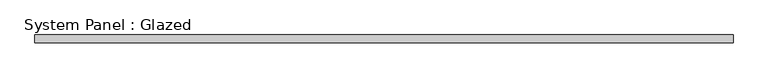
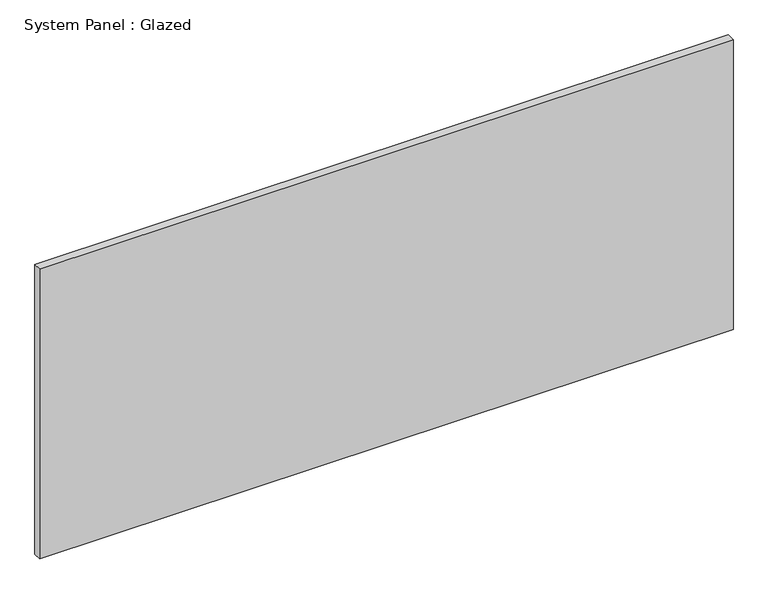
"""IFC4 building model written with IfcOpenShell, lengths in millimetres: plate geometry, System Panel : Glazed."""

import ifcopenshell
import ifcopenshell.guid

model = None  # the IFC model being written
_history = None  # IfcOwnerHistory: only IFC2X3 demands one
_inside = {}  # id of a spatial element -> (the spatial element, [elements in it])
_under = {}  # id of a project, library or spatial element -> (it, [spatial elements below it])
_declared = {}  # id of a project -> (the project, [libraries it declares])
_typed = {}  # id of a type object -> (the type object, [elements of that type])
_made_of = {}  # id of a material, layer set ... -> (it, [elements and type objects made of it])


def new_model(schema):
    """Start an empty IFC model of exactly this schema.

    Asked for "IFC4X3", IfcOpenShell would pick the latest addendum, in which some entities
    have other attributes; the version numbers below select the first issue.
    IFC2X3 requires an IfcOwnerHistory on every rooted entity: one is made here for all.
    """
    global model, _history
    if schema == "IFC4X3":
        model = ifcopenshell.file(schema_version=(4, 3, 0, 0))
    else:
        model = ifcopenshell.file(schema=schema)
    _inside.clear()
    _under.clear()
    _declared.clear()
    _typed.clear()
    _made_of.clear()
    _history = None
    if model.schema == "IFC2X3":
        org = make("IfcOrganization", Name="unknown")
        user = make(
            "IfcPersonAndOrganization",
            ThePerson=make("IfcPerson", FamilyName="unknown"),
            TheOrganization=org,
        )
        app = make(
            "IfcApplication",
            ApplicationDeveloper=org,
            Version="unknown",
            ApplicationFullName="unknown",
            ApplicationIdentifier="unknown",
        )
        _history = make(
            "IfcOwnerHistory",
            OwningUser=user,
            OwningApplication=app,
            ChangeAction="ADDED",
            CreationDate=0,
        )
    return model


def make(cls, **values):
    """One entity of the class cls with the attributes given. An attribute that is None is left unset."""
    return model.create_entity(
        cls, **{name: value for name, value in values.items() if value is not None}
    )


def rooted(cls, **values):
    """An entity with a GlobalId (a new one), such as an element, a storey or a relation."""
    return make(cls, GlobalId=ifcopenshell.guid.new(), OwnerHistory=_history, **values)


def si_unit(unit_type, name, prefix=None):
    """IfcSIUnit, for example si_unit("LENGTHUNIT", "METRE", prefix="MILLI")."""
    return make("IfcSIUnit", UnitType=unit_type, Prefix=prefix, Name=name)


def assignment(units):
    """IfcUnitAssignment: the units of a project."""
    return None if units is None else make("IfcUnitAssignment", Units=units)


def point(xyz):
    """IfcCartesianPoint."""
    return None if xyz is None else make("IfcCartesianPoint", Coordinates=xyz)


def direction(xyz):
    """IfcDirection."""
    return None if xyz is None else make("IfcDirection", DirectionRatios=xyz)


def frame(location, z_axis=None, x_axis=None):
    """IfcAxis2Placement3D, a coordinate frame: its origin and axes. An axis left out is left unset."""
    return make(
        "IfcAxis2Placement3D",
        Location=point(location),
        Axis=direction(z_axis),
        RefDirection=direction(x_axis),
    )


def origin():
    """The frame at (0, 0, 0) with its axes left unset."""
    return frame((0.0, 0.0, 0.0))


def origin_with_axes():
    """The frame at (0, 0, 0) with the z axis (0, 0, 1) and the x axis (1, 0, 0) written out."""
    return frame((0.0, 0.0, 0.0), z_axis=(0.0, 0.0, 1.0), x_axis=(1.0, 0.0, 0.0))


def place(relative_to, where):
    """IfcLocalPlacement: puts the frame where relative to a parent placement (None: the world)."""
    return make(
        "IfcLocalPlacement", PlacementRelTo=relative_to, RelativePlacement=where
    )


def context(
    kind, dimensions, precision=None, world=None, true_north=None, identifier=None
):
    """IfcGeometricRepresentationContext, for example the 3D "Model" context."""
    return make(
        "IfcGeometricRepresentationContext",
        ContextIdentifier=identifier,
        ContextType=kind,
        CoordinateSpaceDimension=dimensions,
        Precision=precision,
        WorldCoordinateSystem=world,
        TrueNorth=true_north,
    )


def project(units=None, contexts=None):
    """IfcProject with its units and contexts."""
    return rooted(
        "IfcProject",
        Name="project",
        RepresentationContexts=contexts,
        UnitsInContext=assignment(units),
    )


def spatial(cls, under=None, at=None, **own):
    """A site, building, storey or space (cls), placed at a placement, below another one or the project."""
    s = rooted(cls, ObjectPlacement=at, **own)
    if under is not None:
        _under.setdefault(under.id(), (under, []))[1].append(s)
    return s


def polyline(points):
    """IfcPolyline through the points."""
    return make("IfcPolyline", Points=[point(p) for p in points])


def outline(outer, holes=None, kind="AREA"):
    """IfcArbitraryClosedProfileDef: a profile drawn as a closed curve; with holes, ...WithVoids."""
    if holes is None:
        return make("IfcArbitraryClosedProfileDef", ProfileType=kind, OuterCurve=outer)
    return make(
        "IfcArbitraryProfileDefWithVoids",
        ProfileType=kind,
        OuterCurve=outer,
        InnerCurves=holes,
    )


def extrude(swept, where, along, depth):
    """IfcExtrudedAreaSolid: the profile swept, set in the frame where, extruded along a direction by depth."""
    return make(
        "IfcExtrudedAreaSolid",
        SweptArea=swept,
        Position=where,
        ExtrudedDirection=direction(along),
        Depth=depth,
    )


def shape(context_of_items, identifier, shape_type, items):
    """IfcShapeRepresentation: the items that make up one representation, for example the "Body"."""
    return make(
        "IfcShapeRepresentation",
        ContextOfItems=context_of_items,
        RepresentationIdentifier=identifier,
        RepresentationType=shape_type,
        Items=items,
    )


def source(mapping_origin, context_of_items, identifier, shape_type, items):
    """IfcRepresentationMap: a shape defined once, which mapped items show again and again."""
    return make(
        "IfcRepresentationMap",
        MappingOrigin=mapping_origin,
        MappedRepresentation=shape(context_of_items, identifier, shape_type, items),
    )


def transform(
    local_origin,
    x_axis=None,
    y_axis=None,
    z_axis=None,
    scale=None,
    scale2=None,
    scale3=None,
    uniform=True,
):
    """IfcCartesianTransformationOperator3D, or its non-uniform kind. x_axis, y_axis, z_axis: its Axis1, 2, 3."""
    if uniform:
        return make(
            "IfcCartesianTransformationOperator3D",
            Axis1=direction(x_axis),
            Axis2=direction(y_axis),
            LocalOrigin=point(local_origin),
            Scale=scale,
            Axis3=direction(z_axis),
        )
    return make(
        "IfcCartesianTransformationOperator3DnonUniform",
        Axis1=direction(x_axis),
        Axis2=direction(y_axis),
        LocalOrigin=point(local_origin),
        Scale=scale,
        Axis3=direction(z_axis),
        Scale2=scale2,
        Scale3=scale3,
    )


def mapped(mapping_source, mapping_target):
    """IfcMappedItem: shows the shape of a source again, moved by a transform."""
    return make(
        "IfcMappedItem", MappingSource=mapping_source, MappingTarget=mapping_target
    )


def made_of(thing, what):
    """Note that an element or type object is made of a material, layer set ...; save() writes the relation."""
    if what is not None:
        _made_of.setdefault(what.id(), (what, []))[1].append(thing)
    return thing


def element(
    cls,
    number,
    at=None,
    inside=None,
    cuts=None,
    type_object=None,
    material=None,
    context=None,
    identifier="Body",
    shape_type=None,
    held_by="IfcProductDefinitionShape",
    body=None,
    shapes=None,
    **own,
):
    """One element of the class cls, such as IfcWall. Its Tag is "e" and its number.

    at: its placement. inside: the storey or other place that contains it. cuts: it is an
    opening in that element (IfcRelVoidsElement). A single representation is given by context,
    identifier, shape_type and body (its items); several are given by shapes. held_by: the class
    of the entity that holds the representations. save() writes the other relations.
    """
    e = rooted(cls, Tag="e%d" % number, ObjectPlacement=at, **own)
    if body is not None:
        shapes = [shape(context, identifier, shape_type, body)]
    if shapes is not None:
        e.Representation = make(held_by, Representations=shapes)
    if inside is not None:
        _inside.setdefault(inside.id(), (inside, []))[1].append(e)
    if cuts is not None:
        rooted(
            "IfcRelVoidsElement", RelatingBuildingElement=cuts, RelatedOpeningElement=e
        )
    if type_object is not None:
        _typed.setdefault(type_object.id(), (type_object, []))[1].append(e)
    return made_of(e, material)


def aggregate(whole, parts):
    """IfcRelAggregates: a whole, such as a stair, and the parts it consists of."""
    return rooted("IfcRelAggregates", RelatingObject=whole, RelatedObjects=parts)


def save(model, path):
    """Write the relations noted so far, then the file.

    IfcRelAggregates (storeys below a building ...), IfcRelContainedInSpatialStructure (elements
    in a storey), IfcRelDefinesByType, IfcRelAssociatesMaterial and IfcRelDeclares: one each for
    every whole, place, type object, material and project.
    """
    for whole, parts in _under.values():
        aggregate(whole, parts)
    for where, things in _inside.values():
        rooted(
            "IfcRelContainedInSpatialStructure",
            RelatedElements=things,
            RelatingStructure=where,
        )
    for kind, things in _typed.values():
        rooted("IfcRelDefinesByType", RelatedObjects=things, RelatingType=kind)
    for what, things in _made_of.values():
        rooted("IfcRelAssociatesMaterial", RelatedObjects=things, RelatingMaterial=what)
    for by, libraries in _declared.values():
        rooted("IfcRelDeclares", RelatingContext=by, RelatedDefinitions=libraries)
    model.write(path)


def system_panel_glazed_1ae2363b(model_context):
    return source(origin(), model_context, "Body", "SweptSolid", [
        extrude(outline(polyline([(1098.686026, 19.05), (-1098.686026, 19.05), (-1098.686026, 44.45), (1098.686026, 44.45), (1098.686026, 19.05)])), origin_with_axes(), (0.0, 0.0, 1.0), 971.55),
    ])


if __name__ == "__main__":
    model = new_model("IFC4")
    model_context = context("Model", 3, world=origin())
    ifc_project = project(units=[si_unit("LENGTHUNIT", "METRE", prefix="MILLI")], contexts=[model_context])
    site = spatial("IfcSite", under=ifc_project)
    building = spatial("IfcBuilding", under=site)
    placement = place(None, origin())
    system_panel_glazed_shape = system_panel_glazed_1ae2363b(model_context)
    element("IfcPlate", 1, ObjectType="System Panel : Glazed", at=placement, inside=building, context=model_context, shape_type="MappedRepresentation", body=[
        mapped(system_panel_glazed_shape, transform((0.0, 0.0, 0.0), x_axis=(1.0, 0.0, 0.0), y_axis=(0.0, 1.0, 0.0), z_axis=(0.0, 0.0, 1.0))),
    ])
    save(model, "model.ifc")
